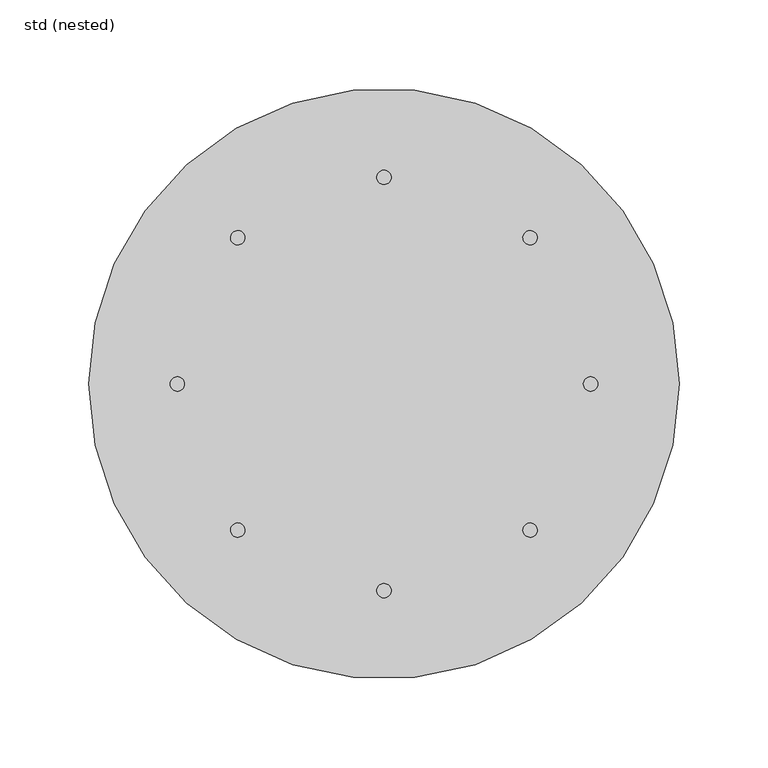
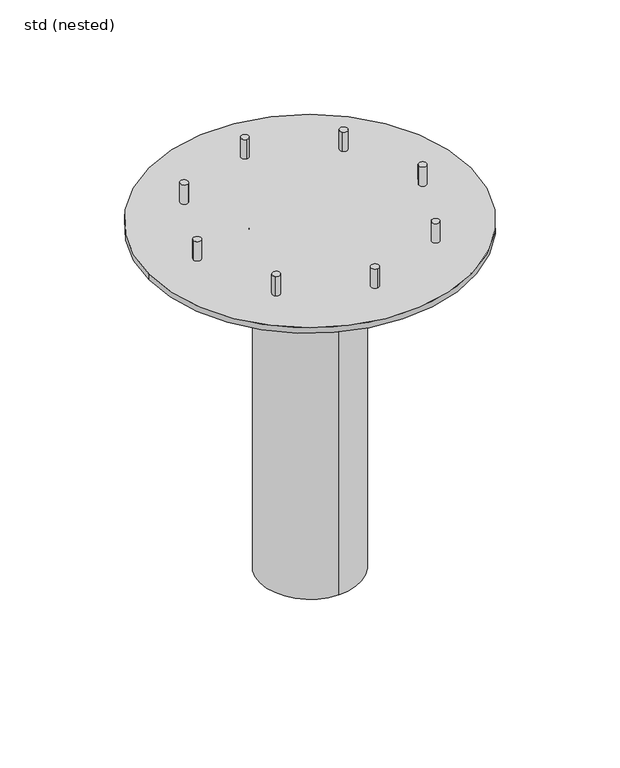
"""IFC4 building model written with IfcOpenShell, lengths in millimetres: sanitary terminal geometry, ZZZ_do not use_PF_ST_lower section for gully body_ACO : std (nested)."""

from ifc_helpers import new_model, si_unit, point, frame, frame_2d, origin, origin_with_axes, place, context, project, spatial, circle_curve, trimmed, segment, composite_curve, outline, extrude, source, transform, mapped, element, save
from ifc_brep_helpers import plane_surface, cylinder_surface, advanced_brep


def std_nested_26a2ab0b(model_context):
    return source(origin(), model_context, "Body", "SolidModel", [
        extrude(outline(composite_curve([segment(trimmed(circle_curve(frame_2d((-82.2011633, 82.2011633)), 4.0), [point((-85.0295904, 85.0295904))], [point((-79.3727362, 79.3727362))], False, "CARTESIAN"), True, "CONTINUOUS"), segment(trimmed(circle_curve(frame_2d((-82.2011633, 82.2011633)), 4.0), [point((-79.3727362, 79.3727362))], [point((-85.0295904, 85.0295904))], False, "CARTESIAN"), True, "CONTINUOUS")], self_intersect=False)), origin_with_axes(), (0.0, 0.0, 1.0), 21.0),
        extrude(outline(composite_curve([segment(trimmed(circle_curve(frame_2d((-116.25, 0.0)), 4.0), [point((-120.25, 0.0))], [point((-112.25, 0.0))], False, "CARTESIAN"), True, "CONTINUOUS"), segment(trimmed(circle_curve(frame_2d((-116.25, 0.0)), 4.0), [point((-112.25, 0.0))], [point((-120.25, 0.0))], False, "CARTESIAN"), True, "CONTINUOUS")], self_intersect=False)), origin_with_axes(), (0.0, 0.0, 1.0), 21.0),
        extrude(outline(composite_curve([segment(trimmed(circle_curve(frame_2d((-82.2011633, -82.2011633)), 4.0), [point((-85.0295904, -85.0295904))], [point((-79.3727362, -79.3727362))], False, "CARTESIAN"), True, "CONTINUOUS"), segment(trimmed(circle_curve(frame_2d((-82.2011633, -82.2011633)), 4.0), [point((-79.3727362, -79.3727362))], [point((-85.0295904, -85.0295904))], False, "CARTESIAN"), True, "CONTINUOUS")], self_intersect=False)), origin_with_axes(), (0.0, 0.0, 1.0), 21.0),
        extrude(outline(composite_curve([segment(trimmed(circle_curve(frame_2d((0.0, -116.25)), 4.0), [point((0.0, -120.25))], [point((0.0, -112.25))], False, "CARTESIAN"), True, "CONTINUOUS"), segment(trimmed(circle_curve(frame_2d((0.0, -116.25)), 4.0), [point((0.0, -112.25))], [point((0.0, -120.25))], False, "CARTESIAN"), True, "CONTINUOUS")], self_intersect=False)), origin_with_axes(), (0.0, 0.0, 1.0), 21.0),
        extrude(outline(composite_curve([segment(trimmed(circle_curve(frame_2d((82.2011633, -82.2011633)), 4.0), [point((85.0295904, -85.0295904))], [point((79.3727362, -79.3727362))], False, "CARTESIAN"), True, "CONTINUOUS"), segment(trimmed(circle_curve(frame_2d((82.2011633, -82.2011633)), 4.0), [point((79.3727362, -79.3727362))], [point((85.0295904, -85.0295904))], False, "CARTESIAN"), True, "CONTINUOUS")], self_intersect=False)), origin_with_axes(), (0.0, 0.0, 1.0), 21.0),
        extrude(outline(composite_curve([segment(trimmed(circle_curve(frame_2d((116.25, 0.0)), 4.0), [point((120.25, 0.0))], [point((112.25, 0.0))], False, "CARTESIAN"), True, "CONTINUOUS"), segment(trimmed(circle_curve(frame_2d((116.25, 0.0)), 4.0), [point((112.25, 0.0))], [point((120.25, 0.0))], False, "CARTESIAN"), True, "CONTINUOUS")], self_intersect=False)), origin_with_axes(), (0.0, 0.0, 1.0), 21.0),
        extrude(outline(composite_curve([segment(trimmed(circle_curve(frame_2d((82.2011633, 82.2011633)), 4.0), [point((85.0295904, 85.0295904))], [point((79.3727362, 79.3727362))], False, "CARTESIAN"), True, "CONTINUOUS"), segment(trimmed(circle_curve(frame_2d((82.2011633, 82.2011633)), 4.0), [point((79.3727362, 79.3727362))], [point((85.0295904, 85.0295904))], False, "CARTESIAN"), True, "CONTINUOUS")], self_intersect=False)), origin_with_axes(), (0.0, 0.0, 1.0), 21.0),
        extrude(outline(composite_curve([segment(trimmed(circle_curve(frame_2d((0.0, 116.25)), 4.0), [point((0.0, 120.25))], [point((0.0, 112.25))], False, "CARTESIAN"), True, "CONTINUOUS"), segment(trimmed(circle_curve(frame_2d((0.0, 116.25)), 4.0), [point((0.0, 112.25))], [point((0.0, 120.25))], False, "CARTESIAN"), True, "CONTINUOUS")], self_intersect=False)), origin_with_axes(), (0.0, 0.0, 1.0), 21.0),
        advanced_brep(
        [(-55.0, 0.0, -70.0), (55.0, 0.0, -70.0), (0.0, -51.5, -70.0), (0.0, 51.5, -70.0), (55.0, 0.0, -6.0), (-55.0, 0.0, -6.0), (0.0, -51.5, -376.0), (0.0, 51.5, -376.0), (-166.0, 0.0, -6.0), (166.0, 0.0, -6.0), (-166.0, 0.0, 0.0), (166.0, 0.0, 0.0)],
        [
            (0, 1, circle_curve(frame((0.0, 0.0, -70.0), z_axis=(0.0, 0.0, -1.0), x_axis=(1.0, 0.0, 0.0)), 55.0)),
            (1, 0, circle_curve(frame((0.0, 0.0, -70.0), z_axis=(0.0, 0.0, -1.0), x_axis=(1.0, 0.0, 0.0)), 55.0)),
            (2, 3, circle_curve(frame((0.0, 0.0, -70.0), z_axis=(0.0, 0.0, 1.0), x_axis=(0.0, 1.0, 0.0)), 51.5)),
            (3, 2, circle_curve(frame((0.0, 0.0, -70.0), z_axis=(0.0, 0.0, 1.0), x_axis=(0.0, 1.0, 0.0)), 51.5)),
            (1, 4),
            (4, 5, circle_curve(frame((0.0, 0.0, -6.0), z_axis=(0.0, 0.0, -1.0), x_axis=(1.0, 0.0, 0.0)), 55.0)),
            (5, 0),
            (5, 4, circle_curve(frame((0.0, 0.0, -6.0), z_axis=(0.0, 0.0, -1.0), x_axis=(1.0, 0.0, 0.0)), 55.0)),
            (6, 7, circle_curve(frame((0.0, 0.0, -376.0), z_axis=(0.0, 0.0, -1.0), x_axis=(0.0, 1.0, 0.0)), 51.5)),
            (7, 6, circle_curve(frame((0.0, 0.0, -376.0), z_axis=(0.0, 0.0, -1.0), x_axis=(0.0, 1.0, 0.0)), 51.5)),
            (7, 3),
            (2, 6),
            (8, 9, circle_curve(frame((0.0, 0.0, -6.0), z_axis=(0.0, 0.0, -1.0), x_axis=(1.0, 0.0, 0.0)), 166.0)),
            (9, 8, circle_curve(frame((0.0, 0.0, -6.0), z_axis=(0.0, 0.0, -1.0), x_axis=(1.0, 0.0, 0.0)), 166.0)),
            (10, 11, circle_curve(origin_with_axes(), 166.0)),
            (11, 10, circle_curve(origin_with_axes(), 166.0)),
            (9, 11),
            (10, 8),
        ],
        [
            plane_surface(frame((55.0, 0.0, -70.0), z_axis=(0.0, 0.0, -1.0), x_axis=(0.0, -1.0, 0.0))),
            cylinder_surface(frame((0.0, 0.0, -70.0), z_axis=(0.0, 0.0, 1.0), x_axis=(1.0, 0.0, 0.0)), 55.0),
            plane_surface(frame((0.0, 51.5, -376.0), z_axis=(0.0, 0.0, -1.0), x_axis=(1.0, 0.0, 0.0))),
            cylinder_surface(frame((0.0, 0.0, -70.0), z_axis=(0.0, 0.0, -1.0), x_axis=(0.0, 1.0, 0.0)), 51.5),
            plane_surface(frame((166.0, 0.0, -6.0), z_axis=(0.0, 0.0, -1.0), x_axis=(0.0, -1.0, 0.0))),
            plane_surface(frame((166.0, 0.0, 0.0), z_axis=(0.0, 0.0, 1.0), x_axis=(0.0, 1.0, 0.0))),
            cylinder_surface(frame((0.0, 0.0, -6.0), z_axis=(0.0, 0.0, 1.0), x_axis=(1.0, 0.0, 0.0)), 166.0),
        ],
        [
            (0, [[1, 2], [3, 4]]),
            (1, [[-2, 5, 6, 7]]),
            (1, [[-1, -7, 8, -5]]),
            (2, [[9, 10]]),
            (3, [[-10, 11, -3, 12]]),
            (3, [[-9, -12, -4, -11]]),
            (4, [[13, 14], [-6, -8]]),
            (5, [[15, 16]]),
            (6, [[-14, 17, -15, 18]]),
            (6, [[-13, -18, -16, -17]]),
        ],
    ),
    ])


if __name__ == "__main__":
    model = new_model("IFC4")
    model_context = context("Model", 3, world=origin())
    ifc_project = project(units=[si_unit("LENGTHUNIT", "METRE", prefix="MILLI")], contexts=[model_context])
    site = spatial("IfcSite", under=ifc_project)
    building = spatial("IfcBuilding", under=site)
    placement = place(None, origin())
    std_nested_shape = std_nested_26a2ab0b(model_context)
    element("IfcSanitaryTerminal", 1, ObjectType="ZZZ_do not use_PF_ST_lower section for gully body_ACO : std (nested)", at=placement, inside=building, context=model_context, shape_type="MappedRepresentation", body=[
        mapped(std_nested_shape, transform((0.0, 0.0, 0.0), x_axis=(1.0, 0.0, 0.0), y_axis=(0.0, 1.0, 0.0), z_axis=(0.0, 0.0, 1.0))),
    ])
    save(model, "model.ifc")
